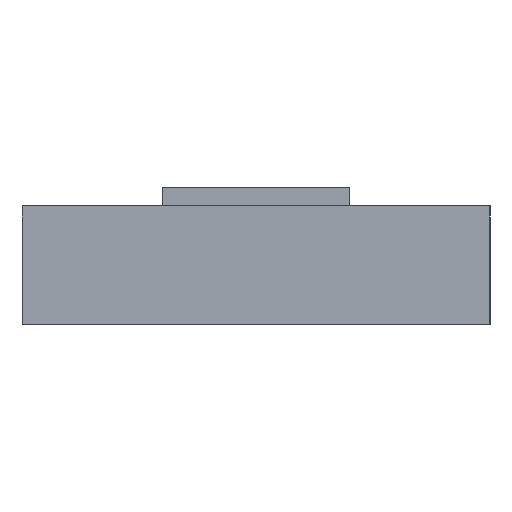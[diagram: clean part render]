
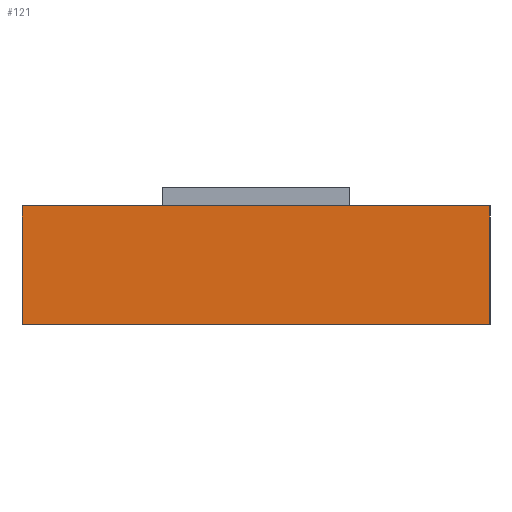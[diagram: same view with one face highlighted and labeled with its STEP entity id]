
A CAD part, left-side view. The second image highlights one B-rep face of the part: STEP entity #121.
In plain terms, the highlighted planar face has unit normal (-1, 0, 0).
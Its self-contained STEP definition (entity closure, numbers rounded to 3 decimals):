
#121=ADVANCED_FACE('',(#215),#217,.T.);
#215=FACE_BOUND('',#216,.T.);
#216=EDGE_LOOP('',(#286,#287,#288,#289));
#217=PLANE('',#218);
#218=AXIS2_PLACEMENT_3D('',#219,#220,#221);
#219=CARTESIAN_POINT('',(-2.5,1.25,0.));
#220=DIRECTION('',(-1.,0.,0.));
#221=DIRECTION('',(0.,-1.,0.));
#286=ORIENTED_EDGE('',*,*,#330,.T.);
#287=ORIENTED_EDGE('',*,*,#331,.T.);
#288=ORIENTED_EDGE('',*,*,#311,.F.);
#289=ORIENTED_EDGE('',*,*,#329,.F.);
#311=EDGE_CURVE('',#343,#345,#346,.T.);
#329=EDGE_CURVE('',#372,#343,#374,.T.);
#330=EDGE_CURVE('',#372,#375,#376,.T.);
#331=EDGE_CURVE('',#375,#345,#377,.T.);
#343=VERTEX_POINT('',#397);
#345=VERTEX_POINT('',#401);
#346=LINE('',#402,#403);
#372=VERTEX_POINT('',#462);
#374=LINE('',#466,#467);
#375=VERTEX_POINT('',#469);
#376=LINE('',#470,#471);
#377=LINE('',#473,#474);
#397=CARTESIAN_POINT('',(-2.5,1.25,0.635));
#401=CARTESIAN_POINT('',(-2.5,-1.25,0.635));
#402=CARTESIAN_POINT('',(-2.5,1.25,0.635));
#403=VECTOR('',#404,1.);
#404=DIRECTION('',(0.,-1.,0.));
#462=CARTESIAN_POINT('',(-2.5,1.25,0.));
#466=CARTESIAN_POINT('',(-2.5,1.25,0.));
#467=VECTOR('',#468,1.);
#468=DIRECTION('',(0.,0.,1.));
#469=CARTESIAN_POINT('',(-2.5,-1.25,0.));
#470=CARTESIAN_POINT('',(-2.5,1.25,0.));
#471=VECTOR('',#472,1.);
#472=DIRECTION('',(0.,-1.,0.));
#473=CARTESIAN_POINT('',(-2.5,-1.25,0.));
#474=VECTOR('',#475,1.);
#475=DIRECTION('',(0.,0.,1.));
